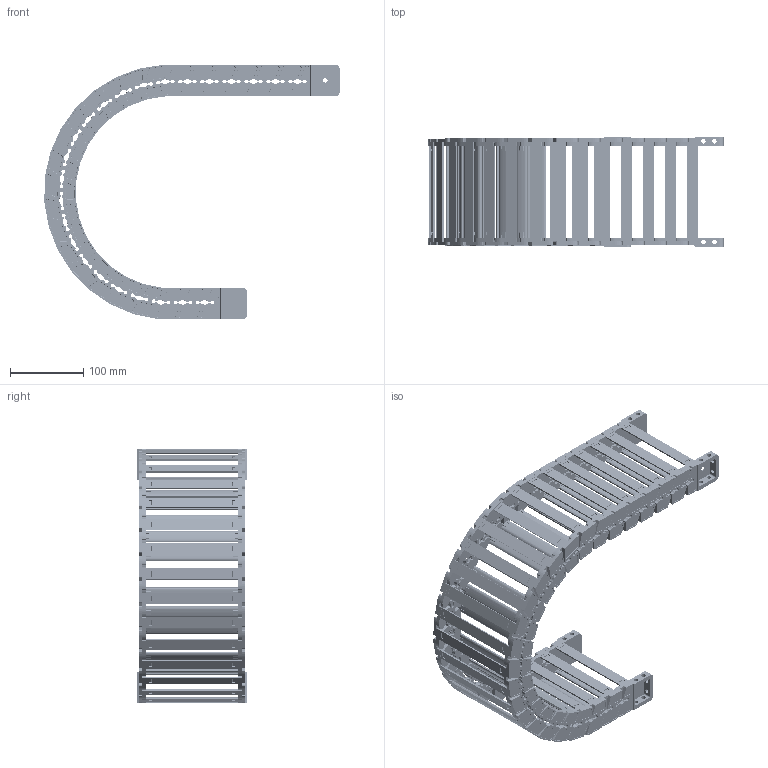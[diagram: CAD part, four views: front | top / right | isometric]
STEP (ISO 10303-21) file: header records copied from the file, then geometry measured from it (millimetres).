
FILE_DESCRIPTION((''),'2;1');
FILE_NAME('JY-35X125-R150_ASM','2025-01-06T09:06:38',('admin'),(''),'CREO PARAMETRIC BY PTC INC, 2021023','CREO PARAMETRIC BY PTC INC, 2021023','');
FILE_SCHEMA(('CONFIG_CONTROL_DESIGN'));
Length unit declared in the file: millimetre
Products named in the file (11): 35XL-L; YP; 35XL-R; ASM0001_ASM; 35-LTT-A-L; 35-LTT-A-R; 35XL-LTT-A_ASM; 35-LTT-B-L; 35-LTT-B-R; 35XL-LTT-B_ASM; JY-35X125-R150_ASM
Assembly tree (37 placements, depth 3):
  JY-35X125-R150_ASM
    ASM0001_ASM  x23
      35XL-L
      YP
      35XL-R
    35XL-LTT-A_ASM
      35-LTT-A-L
      YP  x2
      35-LTT-A-R
    35XL-LTT-B_ASM
      35-LTT-B-L
      YP  x2
      35-LTT-B-R
Bounding box: 402.36 x 149.5 x 347.06 mm (x, y, z)
Volume: 856851.4 mm3; surface area: 525206.1 mm2
Topology: 100 solids, 100 shells, 8160 faces, 24472 edges, 16520 vertices
Faces by surface type: plane 4618, cylinder 2678, cone 528, extrusion 192, bspline 144
Entity records: 27906 total; most frequent: CARTESIAN_POINT 6170, ORIENTED_EDGE 4640, DIRECTION 4369, EDGE_CURVE 2320, VERTEX_POINT 1568, AXIS2_PLACEMENT_3D 1476, VECTOR 1417, LINE 1401
